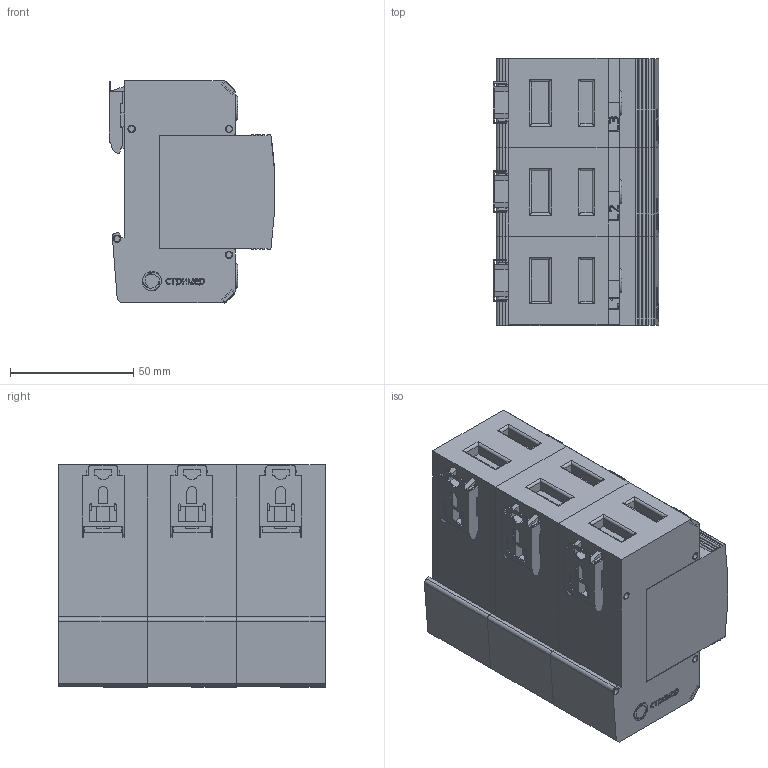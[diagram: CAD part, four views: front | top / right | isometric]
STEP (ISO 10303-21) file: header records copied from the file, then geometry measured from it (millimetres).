
FILE_DESCRIPTION(('TFLEX Exchange Step'),'2;1');
FILE_NAME('X2\041004400442\X0\.113_001.stp', '2022-08-30T13:50:49+03:00',('Ivan Berdigulov'),('Unknown organisation'),'TFLEX Exchange 2019.2','T-FLEX CAD','Unknown authorisation');
FILE_SCHEMA( ('AUTOMOTIVE_DESIGN { 1 0 10303 214 1 1 1 1 }') );
Length unit declared in the file: millimetre
Products named in the file (2): 0
Assembly tree (1 placements, depth 2):
  0
    0
Bounding box: 66.98 x 108.1 x 90.09 mm (x, y, z)
Volume: 518221.4 mm3; surface area: 104836.4 mm2
Topology: 96 solids, 96 shells, 1582 faces, 4012 edges, 2649 vertices
Faces by surface type: plane 970, cylinder 319, bspline 287, torus 6
Full cylindrical faces by diameter (mm): 2.5 x36, 3 x36
Entity records: 72151 total; most frequent: CARTESIAN_POINT 35849, ORIENTED_EDGE 7868, DIRECTION 6359, EDGE_CURVE 3934, VERTEX_POINT 2649, VECTOR 2479, LINE 2479, AXIS2_PLACEMENT_3D 1940
